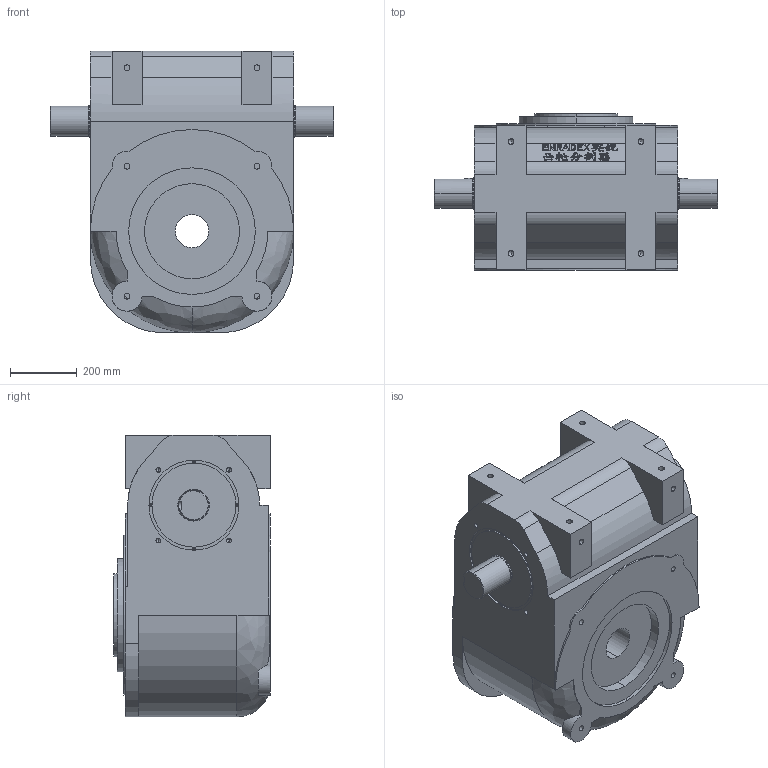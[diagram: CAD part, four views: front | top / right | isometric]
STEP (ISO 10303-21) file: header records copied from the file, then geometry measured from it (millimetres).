
FILE_DESCRIPTION (( 'STEP AP214' ), '1' );
FILE_NAME ('ER-RU330DA英锐凸轮分割器3D固定盘和法兰面加销孔图纸(电话15062628977)A.STEP', '2022-10-31T08:54:35', ( '微软用户' ), ( '微软中国' ), 'SwSTEP 2.0', 'SolidWorks 2017', '' );
FILE_SCHEMA (( 'AUTOMOTIVE_DESIGN' ));
Length unit declared in the file: millimetre
Products named in the file (1): ER-RU330DA英锐凸轮分割器3D固定盘和法兰面加销孔图纸(电话15062628977)A
Bounding box: 850 x 470 x 845 mm (x, y, z)
Volume: 191995324.2 mm3; surface area: 2490366.5 mm2
Topology: 9 solids, 13 shells, 747 faces, 1800 edges, 1110 vertices
Faces by surface type: plane 324, cylinder 173, bspline 167, cone 83
Entity records: 38485 total; most frequent: CARTESIAN_POINT 19793, ORIENTED_EDGE 3448, DIRECTION 2953, EDGE_CURVE 1724, VERTEX_POINT 1110, AXIS2_PLACEMENT_3D 988, LINE 977, VECTOR 977
